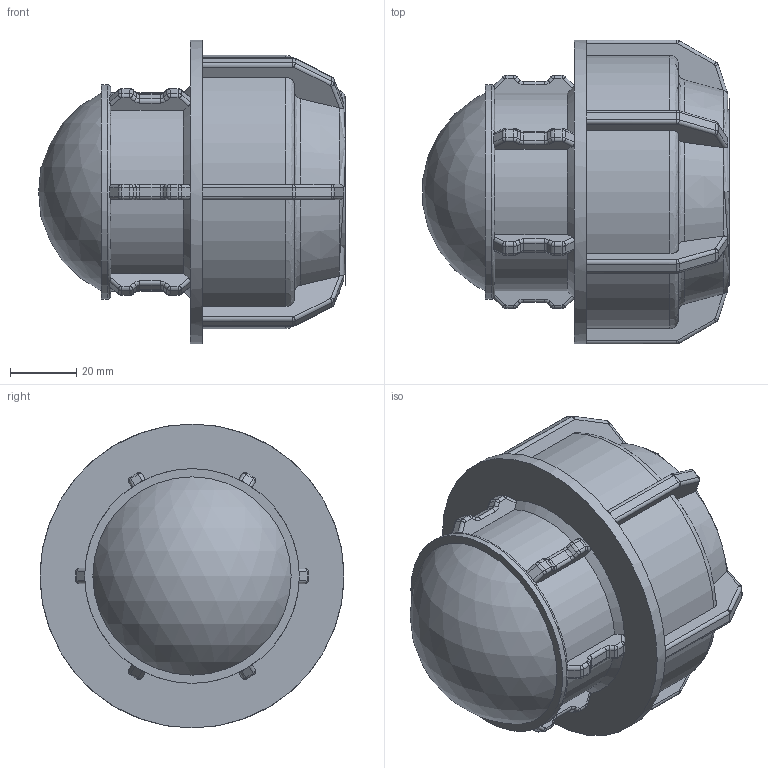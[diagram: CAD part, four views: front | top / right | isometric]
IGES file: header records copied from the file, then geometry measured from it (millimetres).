
Global section: file name: 141200050.ipt; native system: Autodesk Inventor 2015; preprocessor: unknown; author: KIM; date: 20180409.131140; units: millimetre
Bounding box: 92.79 x 92 x 92 mm (x, y, z)
Volume: 184532 mm3; surface area: 46624.8 mm2
Topology: 1 solids, 1 shells, 465 faces, 1149 edges, 686 vertices
Faces by surface type: cylinder 170, plane 156, revolution 126, cone 12, sphere 1
Full cylindrical faces by diameter (mm): 65 x1, 92 x1
